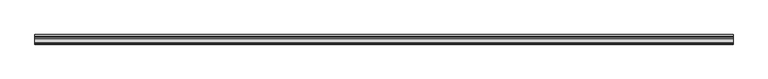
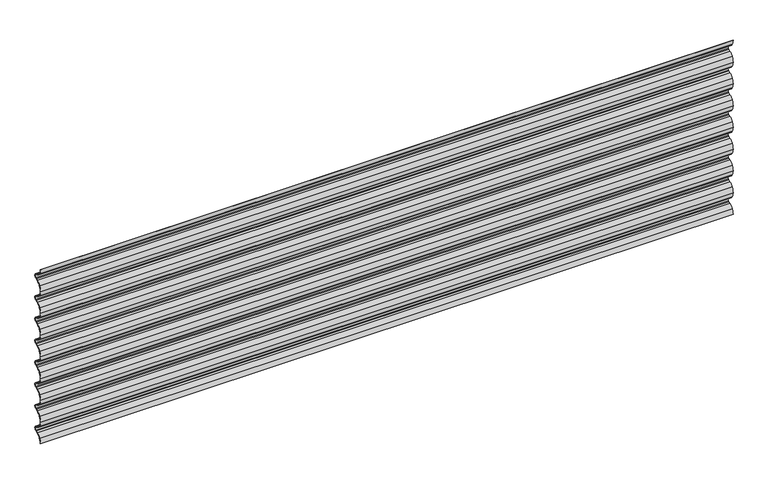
"""IFC4 building model written with IfcOpenShell, lengths in millimetres: plate geometry, Regolare Horizontal 712 : Regolare Horizontal 712."""

from ifc_helpers import new_model, si_unit, point, frame, frame_2d, origin, place, context, project, spatial, polyline, circle_curve, trimmed, segment, composite_curve, outline, extrude, source, transform, mapped, element, save


def plate_6dec1907(model_context):
    return source(origin(), model_context, "Body", "SweptSolid", [
        extrude(outline(composite_curve([segment(trimmed(circle_curve(frame_2d((38.4503244, 0.0)), 37.4503244), [point((6.5021495, 19.5407501))], [point((1.0, 0.0))], True, "CARTESIAN"), True, "CONTINUOUS"), segment(polyline([(1.0, 0.0), (0.0, 0.0)]), True, "CONTINUOUS"), segment(trimmed(circle_curve(frame_2d((38.4503244, 0.0)), 38.4503244), [point((0.0, 0.0))], [point((5.6490681, 20.062528))], False, "CARTESIAN"), True, "CONTINUOUS"), segment(trimmed(circle_curve(frame_2d((32.6206681, 3.5656452)), 31.6166783), [point((5.6490681, 20.062528))], [point((20.878867, 32.9211295))], False, "CARTESIAN"), True, "CONTINUOUS"), segment(polyline([(20.878867, 32.9211295), (28.0423924, 35.7903512), (31.4771017, 37.4367049)]), True, "CONTINUOUS"), segment(trimmed(circle_curve(frame_2d((28.0791236, 44.5257445)), 7.8613445), [point((31.4771017, 37.4367049))], [point((35.9404682, 44.5257445))], True, "CARTESIAN"), True, "CONTINUOUS"), segment(trimmed(circle_curve(frame_2d((28.0791236, 44.5257445)), 7.8613445), [point((35.9404682, 44.5257445))], [point((31.4771017, 51.6147842))], True, "CARTESIAN"), True, "CONTINUOUS"), segment(polyline([(31.4771017, 51.6147842), (28.0423924, 53.2611379), (20.878867, 56.1303596)]), True, "CONTINUOUS"), segment(trimmed(circle_curve(frame_2d((32.6206681, 85.4858438)), 31.6166783), [point((20.878867, 56.1303596))], [point((5.6490681, 68.9889611))], False, "CARTESIAN"), True, "CONTINUOUS"), segment(trimmed(circle_curve(frame_2d((38.4503244, 89.0514891)), 38.4503244), [point((5.6490681, 68.9889611))], [point((0.0, 89.0514891))], False, "CARTESIAN"), True, "CONTINUOUS"), segment(trimmed(circle_curve(frame_2d((38.4503244, 89.0514891)), 38.4503244), [point((0.0, 89.0514891))], [point((5.6490681, 109.1140171))], False, "CARTESIAN"), True, "CONTINUOUS"), segment(trimmed(circle_curve(frame_2d((32.6206681, 92.6171343)), 31.6166783), [point((5.6490681, 109.1140171))], [point((20.878867, 121.9726185))], False, "CARTESIAN"), True, "CONTINUOUS"), segment(polyline([(20.878867, 121.9726185), (28.0423924, 124.8418403), (31.4771017, 126.488194)]), True, "CONTINUOUS"), segment(trimmed(circle_curve(frame_2d((28.0791236, 133.5772336)), 7.8613445), [point((31.4771017, 126.488194))], [point((31.4771017, 140.6662733))], True, "CARTESIAN"), True, "CONTINUOUS"), segment(polyline([(31.4771017, 140.6662733), (28.0423924, 142.312627), (20.878867, 145.1818487)]), True, "CONTINUOUS"), segment(trimmed(circle_curve(frame_2d((32.6206681, 174.5373329)), 31.6166783), [point((20.878867, 145.1818487))], [point((5.6490681, 158.0404502))], False, "CARTESIAN"), True, "CONTINUOUS"), segment(trimmed(circle_curve(frame_2d((38.4503244, 178.1029782)), 38.4503244), [point((5.6490681, 158.0404502))], [point((0.0, 178.1029782))], False, "CARTESIAN"), True, "CONTINUOUS"), segment(trimmed(circle_curve(frame_2d((38.4503244, 178.1029782)), 38.4503244), [point((0.0, 178.1029782))], [point((5.6490681, 198.1655062))], False, "CARTESIAN"), True, "CONTINUOUS"), segment(trimmed(circle_curve(frame_2d((32.6206681, 181.6686234)), 31.6166783), [point((5.6490681, 198.1655062))], [point((20.878867, 211.0241076))], False, "CARTESIAN"), True, "CONTINUOUS"), segment(polyline([(20.878867, 211.0241076), (28.0423924, 213.8933293), (31.4771017, 215.5396831)]), True, "CONTINUOUS"), segment(trimmed(circle_curve(frame_2d((28.0791236, 222.6287227)), 7.8613445), [point((31.4771017, 215.5396831))], [point((31.4771017, 229.7177623))], True, "CARTESIAN"), True, "CONTINUOUS"), segment(polyline([(31.4771017, 229.7177623), (28.0423924, 231.3641161), (20.878867, 234.2333378)]), True, "CONTINUOUS"), segment(trimmed(circle_curve(frame_2d((32.6206681, 263.588822)), 31.6166783), [point((20.878867, 234.2333378))], [point((5.6490681, 247.0919392))], False, "CARTESIAN"), True, "CONTINUOUS"), segment(trimmed(circle_curve(frame_2d((38.4503244, 267.1544672)), 38.4503244), [point((5.6490681, 247.0919392))], [point((0.0, 267.1544672))], False, "CARTESIAN"), True, "CONTINUOUS"), segment(trimmed(circle_curve(frame_2d((38.4503244, 267.1544672)), 38.4503244), [point((0.0, 267.1544672))], [point((5.6490681, 287.2169952))], False, "CARTESIAN"), True, "CONTINUOUS"), segment(trimmed(circle_curve(frame_2d((32.6206681, 270.7201125)), 31.6166783), [point((5.6490681, 287.2169952))], [point((20.878867, 300.0755967))], False, "CARTESIAN"), True, "CONTINUOUS"), segment(polyline([(20.878867, 300.0755967), (28.0423924, 302.9448184), (31.4771017, 304.5911721)]), True, "CONTINUOUS"), segment(trimmed(circle_curve(frame_2d((28.0791236, 311.6802118)), 7.8613445), [point((31.4771017, 304.5911721))], [point((31.4771017, 318.7692514))], True, "CARTESIAN"), True, "CONTINUOUS"), segment(polyline([(31.4771017, 318.7692514), (28.0423924, 320.4156051), (20.878867, 323.2848269)]), True, "CONTINUOUS"), segment(trimmed(circle_curve(frame_2d((32.6206681, 352.6403111)), 31.6166783), [point((20.878867, 323.2848269))], [point((5.6490681, 336.1434283))], False, "CARTESIAN"), True, "CONTINUOUS"), segment(trimmed(circle_curve(frame_2d((38.4503244, 356.2059563)), 38.4503244), [point((5.6490681, 336.1434283))], [point((0.0, 356.2059563))], False, "CARTESIAN"), True, "CONTINUOUS"), segment(trimmed(circle_curve(frame_2d((38.4503244, 356.2059563)), 38.4503244), [point((0.0, 356.2059563))], [point((5.6490681, 376.2684843))], False, "CARTESIAN"), True, "CONTINUOUS"), segment(trimmed(circle_curve(frame_2d((32.6206681, 359.7716016)), 31.6166783), [point((5.6490681, 376.2684843))], [point((20.878867, 389.1270858))], False, "CARTESIAN"), True, "CONTINUOUS"), segment(polyline([(20.878867, 389.1270858), (28.0423924, 391.9963075), (31.4771017, 393.6426612)]), True, "CONTINUOUS"), segment(trimmed(circle_curve(frame_2d((28.0791236, 400.7317009)), 7.8613445), [point((31.4771017, 393.6426612))], [point((31.4771017, 407.8207405))], True, "CARTESIAN"), True, "CONTINUOUS"), segment(polyline([(31.4771017, 407.8207405), (28.0423924, 409.4670942), (20.878867, 412.3363159)]), True, "CONTINUOUS"), segment(trimmed(circle_curve(frame_2d((32.6206681, 441.6918002)), 31.6166783), [point((20.878867, 412.3363159))], [point((5.6490681, 425.1949174))], False, "CARTESIAN"), True, "CONTINUOUS"), segment(trimmed(circle_curve(frame_2d((38.4503244, 445.2574454)), 38.4503244), [point((5.6490681, 425.1949174))], [point((0.0, 445.2574454))], False, "CARTESIAN"), True, "CONTINUOUS"), segment(trimmed(circle_curve(frame_2d((38.4503244, 445.2574454)), 38.4503244), [point((0.0, 445.2574454))], [point((5.6490681, 465.3199734))], False, "CARTESIAN"), True, "CONTINUOUS"), segment(trimmed(circle_curve(frame_2d((32.6206681, 448.8230907)), 31.6166783), [point((5.6490681, 465.3199734))], [point((20.878867, 478.1785749))], False, "CARTESIAN"), True, "CONTINUOUS"), segment(polyline([(20.878867, 478.1785749), (28.0423924, 481.0477966), (31.4771017, 482.6941503)]), True, "CONTINUOUS"), segment(trimmed(circle_curve(frame_2d((28.0791236, 489.7831899)), 7.8613445), [point((31.4771017, 482.6941503))], [point((31.4771017, 496.8722296))], True, "CARTESIAN"), True, "CONTINUOUS"), segment(polyline([(31.4771017, 496.8722296), (28.0423924, 498.5185833), (20.878867, 501.387805)]), True, "CONTINUOUS"), segment(trimmed(circle_curve(frame_2d((32.6206681, 530.7432892)), 31.6166783), [point((20.878867, 501.387805))], [point((5.6490681, 514.2464065))], False, "CARTESIAN"), True, "CONTINUOUS"), segment(trimmed(circle_curve(frame_2d((38.4503244, 534.3089345)), 38.4503244), [point((5.6490681, 514.2464065))], [point((0.0, 534.3089345))], False, "CARTESIAN"), True, "CONTINUOUS"), segment(trimmed(circle_curve(frame_2d((38.4503244, 534.3089345)), 38.4503244), [point((0.0, 534.3089345))], [point((5.6490681, 554.3714625))], False, "CARTESIAN"), True, "CONTINUOUS"), segment(trimmed(circle_curve(frame_2d((32.6206681, 537.8745797)), 31.6166783), [point((5.6490681, 554.3714625))], [point((20.878867, 567.230064))], False, "CARTESIAN"), True, "CONTINUOUS"), segment(polyline([(20.878867, 567.230064), (28.0423924, 570.0992857), (31.4771017, 571.7456394)]), True, "CONTINUOUS"), segment(trimmed(circle_curve(frame_2d((28.0791236, 578.834679)), 7.8613445), [point((31.4771017, 571.7456394))], [point((31.4771017, 585.9237187))], True, "CARTESIAN"), True, "CONTINUOUS"), segment(polyline([(31.4771017, 585.9237187), (28.0423924, 587.5700724), (20.878867, 590.4392941)]), True, "CONTINUOUS"), segment(trimmed(circle_curve(frame_2d((32.6206681, 619.7947783)), 31.6166783), [point((20.878867, 590.4392941))], [point((5.6490681, 603.2978956))], False, "CARTESIAN"), True, "CONTINUOUS"), segment(trimmed(circle_curve(frame_2d((38.4503244, 623.3604236)), 38.4503244), [point((5.6490681, 603.2978956))], [point((0.0, 623.3604236))], False, "CARTESIAN"), True, "CONTINUOUS"), segment(trimmed(circle_curve(frame_2d((38.4503244, 623.3604236)), 38.4503244), [point((0.0, 623.3604236))], [point((5.6490681, 643.4229516))], False, "CARTESIAN"), True, "CONTINUOUS"), segment(trimmed(circle_curve(frame_2d((32.6206681, 626.9260688)), 31.6166783), [point((5.6490681, 643.4229516))], [point((20.878867, 656.281553))], False, "CARTESIAN"), True, "CONTINUOUS"), segment(polyline([(20.878867, 656.281553), (28.0423924, 659.1507748), (31.4771017, 660.7971285)]), True, "CONTINUOUS"), segment(trimmed(circle_curve(frame_2d((28.0791236, 667.8861681)), 7.8613445), [point((31.4771017, 660.7971285))], [point((31.4771017, 674.9752077))], True, "CARTESIAN"), True, "CONTINUOUS"), segment(polyline([(31.4771017, 674.9752077), (28.0423924, 676.6215615), (20.878867, 679.4907832)]), True, "CONTINUOUS"), segment(trimmed(circle_curve(frame_2d((32.6206681, 708.8462674)), 31.6166783), [point((20.878867, 679.4907832))], [point((5.6490681, 692.3493846))], False, "CARTESIAN"), True, "CONTINUOUS"), segment(trimmed(circle_curve(frame_2d((38.4503244, 712.4119126)), 38.4503244), [point((5.6490681, 692.3493846))], [point((0.0, 712.4119126))], False, "CARTESIAN"), True, "CONTINUOUS"), segment(polyline([(0.0, 712.4119126), (1.0, 712.4119126)]), True, "CONTINUOUS"), segment(trimmed(circle_curve(frame_2d((38.4503244, 712.4119126)), 37.4503244), [point((1.0, 712.4119126))], [point((6.5021495, 692.8711625))], True, "CARTESIAN"), True, "CONTINUOUS"), segment(trimmed(circle_curve(frame_2d((32.6206681, 708.8462674)), 30.6166783), [point((6.5021495, 692.8711625))], [point((21.2504634, 680.4191776))], True, "CARTESIAN"), True, "CONTINUOUS"), segment(polyline([(21.2504634, 680.4191776), (28.4448583, 677.5375917), (31.9093405, 675.8769669)]), True, "CONTINUOUS"), segment(trimmed(circle_curve(frame_2d((28.0791236, 667.8861681)), 8.8613445), [point((31.9093405, 675.8769669))], [point((31.9093405, 659.8953693))], False, "CARTESIAN"), True, "CONTINUOUS"), segment(polyline([(31.9093405, 659.8953693), (28.4448583, 658.2347446), (21.2504634, 655.3531587)]), True, "CONTINUOUS"), segment(trimmed(circle_curve(frame_2d((32.6206681, 626.9260688)), 30.6166783), [point((21.2504634, 655.3531587))], [point((6.5021495, 642.9011737))], True, "CARTESIAN"), True, "CONTINUOUS"), segment(trimmed(circle_curve(frame_2d((38.4503244, 623.3604236)), 37.4503244), [point((6.5021495, 642.9011737))], [point((1.0, 623.3604236))], True, "CARTESIAN"), True, "CONTINUOUS"), segment(trimmed(circle_curve(frame_2d((38.4503244, 623.3604236)), 37.4503244), [point((1.0, 623.3604236))], [point((6.5021495, 603.8196734))], True, "CARTESIAN"), True, "CONTINUOUS"), segment(trimmed(circle_curve(frame_2d((32.6206681, 619.7947783)), 30.6166783), [point((6.5021495, 603.8196734))], [point((21.2504634, 591.3676885))], True, "CARTESIAN"), True, "CONTINUOUS"), segment(polyline([(21.2504634, 591.3676885), (28.4448583, 588.4861026), (31.9093405, 586.8254778)]), True, "CONTINUOUS"), segment(trimmed(circle_curve(frame_2d((28.0791236, 578.834679)), 8.8613445), [point((31.9093405, 586.8254778))], [point((31.9093405, 570.8438802))], False, "CARTESIAN"), True, "CONTINUOUS"), segment(polyline([(31.9093405, 570.8438802), (28.4448583, 569.1832555), (21.2504634, 566.3016696)]), True, "CONTINUOUS"), segment(trimmed(circle_curve(frame_2d((32.6206681, 537.8745797)), 30.6166783), [point((21.2504634, 566.3016696))], [point((6.5021495, 553.8496846))], True, "CARTESIAN"), True, "CONTINUOUS"), segment(trimmed(circle_curve(frame_2d((38.4503244, 534.3089345)), 37.4503244), [point((6.5021495, 553.8496846))], [point((1.0, 534.3089345))], True, "CARTESIAN"), True, "CONTINUOUS"), segment(trimmed(circle_curve(frame_2d((38.4503244, 534.3089345)), 37.4503244), [point((1.0, 534.3089345))], [point((6.5021495, 514.7681843))], True, "CARTESIAN"), True, "CONTINUOUS"), segment(trimmed(circle_curve(frame_2d((32.6206681, 530.7432892)), 30.6166783), [point((6.5021495, 514.7681843))], [point((21.2504634, 502.3161994))], True, "CARTESIAN"), True, "CONTINUOUS"), segment(polyline([(21.2504634, 502.3161994), (28.4448583, 499.4346135), (31.9093405, 497.7739888)]), True, "CONTINUOUS"), segment(trimmed(circle_curve(frame_2d((28.0791236, 489.7831899)), 8.8613445), [point((31.9093405, 497.7739888))], [point((31.9093405, 481.7923911))], False, "CARTESIAN"), True, "CONTINUOUS"), segment(polyline([(31.9093405, 481.7923911), (28.4448583, 480.1317664), (21.2504634, 477.2501805)]), True, "CONTINUOUS"), segment(trimmed(circle_curve(frame_2d((32.6206681, 448.8230907)), 30.6166783), [point((21.2504634, 477.2501805))], [point((6.5021495, 464.7981955))], True, "CARTESIAN"), True, "CONTINUOUS"), segment(trimmed(circle_curve(frame_2d((38.4503244, 445.2574454)), 37.4503244), [point((6.5021495, 464.7981955))], [point((1.0, 445.2574454))], True, "CARTESIAN"), True, "CONTINUOUS"), segment(trimmed(circle_curve(frame_2d((38.4503244, 445.2574454)), 37.4503244), [point((1.0, 445.2574454))], [point((6.5021495, 425.7166953))], True, "CARTESIAN"), True, "CONTINUOUS"), segment(trimmed(circle_curve(frame_2d((32.6206681, 441.6918002)), 30.6166783), [point((6.5021495, 425.7166953))], [point((21.2504634, 413.2647103))], True, "CARTESIAN"), True, "CONTINUOUS"), segment(polyline([(21.2504634, 413.2647103), (28.4448583, 410.3831244), (31.9093405, 408.7224997)]), True, "CONTINUOUS"), segment(trimmed(circle_curve(frame_2d((28.0791236, 400.7317009)), 8.8613445), [point((31.9093405, 408.7224997))], [point((31.9093405, 392.740902))], False, "CARTESIAN"), True, "CONTINUOUS"), segment(polyline([(31.9093405, 392.740902), (28.4448583, 391.0802773), (21.2504634, 388.1986914)]), True, "CONTINUOUS"), segment(trimmed(circle_curve(frame_2d((32.6206681, 359.7716016)), 30.6166783), [point((21.2504634, 388.1986914))], [point((6.5021495, 375.7467065))], True, "CARTESIAN"), True, "CONTINUOUS"), segment(trimmed(circle_curve(frame_2d((38.4503244, 356.2059563)), 37.4503244), [point((6.5021495, 375.7467065))], [point((1.0, 356.2059563))], True, "CARTESIAN"), True, "CONTINUOUS"), segment(trimmed(circle_curve(frame_2d((38.4503244, 356.2059563)), 37.4503244), [point((1.0, 356.2059563))], [point((6.5021495, 336.6652062))], True, "CARTESIAN"), True, "CONTINUOUS"), segment(trimmed(circle_curve(frame_2d((32.6206681, 352.6403111)), 30.6166783), [point((6.5021495, 336.6652062))], [point((21.2504634, 324.2132212))], True, "CARTESIAN"), True, "CONTINUOUS"), segment(polyline([(21.2504634, 324.2132212), (28.4448583, 321.3316353), (31.9093405, 319.6710106)]), True, "CONTINUOUS"), segment(trimmed(circle_curve(frame_2d((28.0791236, 311.6802118)), 8.8613445), [point((31.9093405, 319.6710106))], [point((31.9093405, 303.689413))], False, "CARTESIAN"), True, "CONTINUOUS"), segment(polyline([(31.9093405, 303.689413), (28.4448583, 302.0287882), (21.2504634, 299.1472023)]), True, "CONTINUOUS"), segment(trimmed(circle_curve(frame_2d((32.6206681, 270.7201125)), 30.6166783), [point((21.2504634, 299.1472023))], [point((6.5021495, 286.6952174))], True, "CARTESIAN"), True, "CONTINUOUS"), segment(trimmed(circle_curve(frame_2d((38.4503244, 267.1544672)), 37.4503244), [point((6.5021495, 286.6952174))], [point((1.0, 267.1544672))], True, "CARTESIAN"), True, "CONTINUOUS"), segment(trimmed(circle_curve(frame_2d((38.4503244, 267.1544672)), 37.4503244), [point((1.0, 267.1544672))], [point((6.5021495, 247.6137171))], True, "CARTESIAN"), True, "CONTINUOUS"), segment(trimmed(circle_curve(frame_2d((32.6206681, 263.588822)), 30.6166783), [point((6.5021495, 247.6137171))], [point((21.2504634, 235.1617322))], True, "CARTESIAN"), True, "CONTINUOUS"), segment(polyline([(21.2504634, 235.1617322), (28.4448583, 232.2801463), (31.9093405, 230.6195215)]), True, "CONTINUOUS"), segment(trimmed(circle_curve(frame_2d((28.0791236, 222.6287227)), 8.8613445), [point((31.9093405, 230.6195215))], [point((31.9093405, 214.6379239))], False, "CARTESIAN"), True, "CONTINUOUS"), segment(polyline([(31.9093405, 214.6379239), (28.4448583, 212.9772992), (21.2504634, 210.0957133)]), True, "CONTINUOUS"), segment(trimmed(circle_curve(frame_2d((32.6206681, 181.6686234)), 30.6166783), [point((21.2504634, 210.0957133))], [point((6.5021495, 197.6437283))], True, "CARTESIAN"), True, "CONTINUOUS"), segment(trimmed(circle_curve(frame_2d((38.4503244, 178.1029782)), 37.4503244), [point((6.5021495, 197.6437283))], [point((1.0, 178.1029782))], True, "CARTESIAN"), True, "CONTINUOUS"), segment(trimmed(circle_curve(frame_2d((38.4503244, 178.1029782)), 37.4503244), [point((1.0, 178.1029782))], [point((6.5021495, 158.562228))], True, "CARTESIAN"), True, "CONTINUOUS"), segment(trimmed(circle_curve(frame_2d((32.6206681, 174.5373329)), 30.6166783), [point((6.5021495, 158.562228))], [point((21.2504634, 146.1102431))], True, "CARTESIAN"), True, "CONTINUOUS"), segment(polyline([(21.2504634, 146.1102431), (28.4448583, 143.2286572), (31.9093405, 141.5680324)]), True, "CONTINUOUS"), segment(trimmed(circle_curve(frame_2d((28.0791236, 133.5772336)), 8.8613445), [point((31.9093405, 141.5680324))], [point((31.9093405, 125.5864348))], False, "CARTESIAN"), True, "CONTINUOUS"), segment(polyline([(31.9093405, 125.5864348), (28.4448583, 123.9258101), (21.2504634, 121.0442242)]), True, "CONTINUOUS"), segment(trimmed(circle_curve(frame_2d((32.6206681, 92.6171343)), 30.6166783), [point((21.2504634, 121.0442242))], [point((6.5021495, 108.5922392))], True, "CARTESIAN"), True, "CONTINUOUS"), segment(trimmed(circle_curve(frame_2d((38.4503244, 89.0514891)), 37.4503244), [point((6.5021495, 108.5922392))], [point((1.0, 89.0514891))], True, "CARTESIAN"), True, "CONTINUOUS"), segment(trimmed(circle_curve(frame_2d((38.4503244, 89.0514891)), 37.4503244), [point((1.0, 89.0514891))], [point((6.5021495, 69.5107389))], True, "CARTESIAN"), True, "CONTINUOUS"), segment(trimmed(circle_curve(frame_2d((32.6206681, 85.4858438)), 30.6166783), [point((6.5021495, 69.5107389))], [point((21.2504634, 57.058754))], True, "CARTESIAN"), True, "CONTINUOUS"), segment(polyline([(21.2504634, 57.058754), (28.4448583, 54.1771681), (31.9093405, 52.5165434)]), True, "CONTINUOUS"), segment(trimmed(circle_curve(frame_2d((28.0791236, 44.5257445)), 8.8613445), [point((31.9093405, 52.5165434))], [point((36.9404682, 44.5257445))], False, "CARTESIAN"), True, "CONTINUOUS"), segment(trimmed(circle_curve(frame_2d((28.0791236, 44.5257445)), 8.8613445), [point((36.9404682, 44.5257445))], [point((31.9093405, 36.5349457))], False, "CARTESIAN"), True, "CONTINUOUS"), segment(polyline([(31.9093405, 36.5349457), (28.4448583, 34.874321), (21.2504634, 31.9927351)]), True, "CONTINUOUS"), segment(trimmed(circle_curve(frame_2d((32.6206681, 3.5656452)), 30.6166783), [point((21.2504634, 31.9927351))], [point((6.5021495, 19.5407501))], True, "CARTESIAN"), True, "CONTINUOUS")], self_intersect=False)), frame((-1340.8345414, 0.0, 0.0), z_axis=(1.0, 0.0, 0.0), x_axis=(0.0, 1.0, 0.0)), (0.0, 0.0, 1.0), 2681.6690827),
    ])


if __name__ == "__main__":
    model = new_model("IFC4")
    model_context = context("Model", 3, world=origin())
    ifc_project = project(units=[si_unit("LENGTHUNIT", "METRE", prefix="MILLI")], contexts=[model_context])
    site = spatial("IfcSite", under=ifc_project)
    building = spatial("IfcBuilding", under=site)
    placement = place(None, origin())
    plate_shape = plate_6dec1907(model_context)
    element("IfcPlate", 1, ObjectType="Regolare Horizontal 712 : Regolare Horizontal 712", at=placement, inside=building, context=model_context, shape_type="MappedRepresentation", body=[
        mapped(plate_shape, transform((0.0, 0.0, 0.0), x_axis=(1.0, 0.0, 0.0), y_axis=(0.0, 1.0, 0.0), z_axis=(0.0, 0.0, 1.0))),
    ])
    save(model, "model.ifc")
